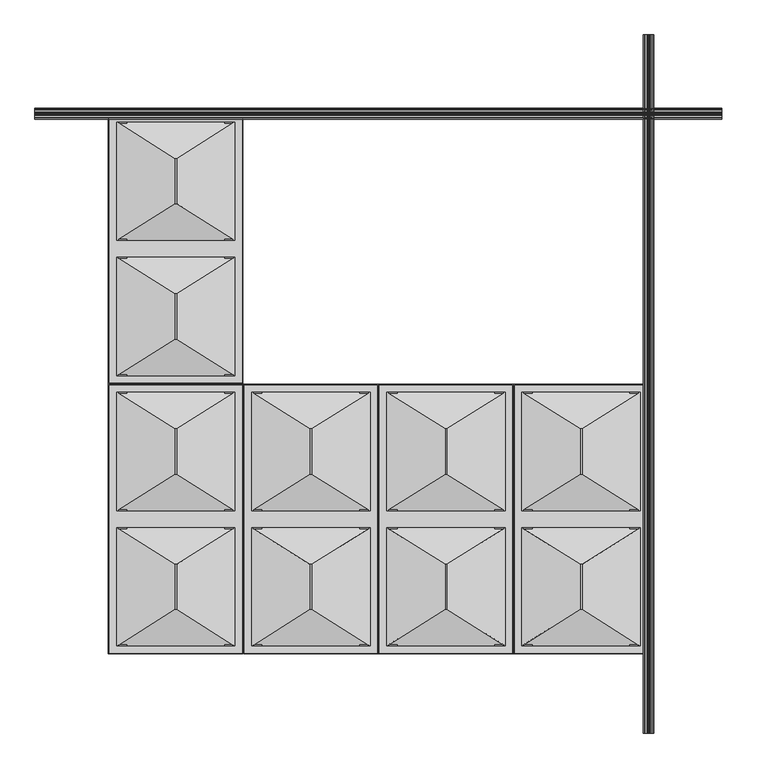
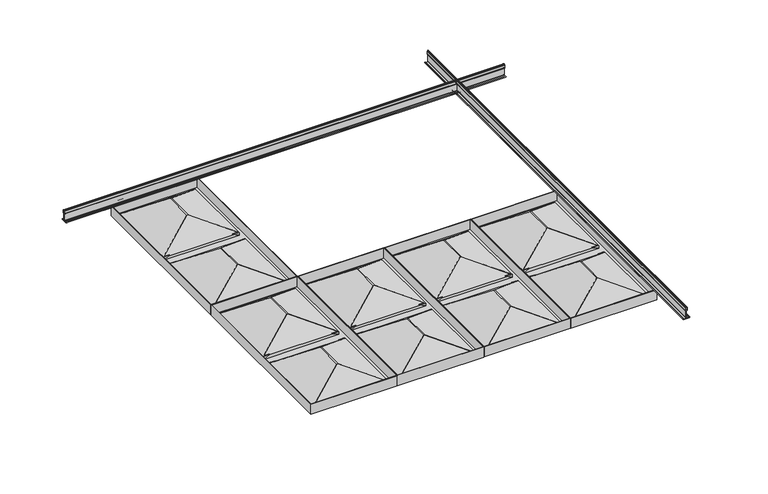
"""IFC4 building model written with IfcOpenShell, lengths in millimetres: proxy geometry, Maxxit_Piramid-Ceiling_rev-01 : Maxxit_Piramid-Ceiling_Duo."""

from ifc_helpers import new_model, si_unit, point, frame, frame_2d, origin, place, context, project, spatial, polyline, circle_curve, trimmed, segment, composite_curve, outline, extrude, faceted_brep, source, transform, mapped, element, save


def generic_models_4451431b(model_context):
    return source(origin(), model_context, "Body", "SolidModel", [
        faceted_brep([(183.30625, 1110.40625, -1.5875), (183.30625, 1110.40625, -11.1125), (206.5970758, 1110.40625, 0.0), (186.6335108, 1110.40625, 0.0), (450.3125, 1110.40625, -11.1125), (450.3125, 1110.40625, -1.5875), (446.9852392, 1110.40625, 0.0), (427.0216742, 1110.40625, 0.0), (450.3125, 1377.4125, -1.5875), (450.3125, 1377.4125, -11.1125), (427.0216742, 1377.4125, 0.0), (446.9852392, 1377.4125, 0.0), (183.30625, 1377.4125, -11.1125), (183.30625, 1377.4125, -1.5875), (186.6335108, 1377.4125, 0.0), (206.5970758, 1377.4125, 0.0), (427.0216742, 1125.208409, 0.0), (318.8856971, 1192.95625, 51.59375), (318.8856971, 1295.16875, 51.59375), (427.0216742, 1362.916591, 0.0), (314.7330529, 1192.95625, 51.59375), (314.7330529, 1295.16875, 51.59375), (206.5970758, 1362.916591, 0.0), (206.5970758, 1125.2084109, 0.0), (186.6335108, 1112.7011155, 0.0), (314.7330529, 1192.9562609, 61.11875), (314.7330529, 1295.16875, 61.11875), (186.6335108, 1375.4238848, 0.0), (318.8856971, 1192.95625, 61.11875), (318.8856971, 1295.16875, 61.11875), (446.9852392, 1375.4238848, 0.0), (446.9852392, 1112.7011152, 0.0)], [[[0, 1, 2, 3]], [[4, 5, 6, 7]], [[8, 9, 10, 11]], [[12, 13, 14, 15]], [[5, 4, 9, 8]], [[9, 4, 7, 16, 17, 18, 19, 10]], [[18, 17, 20, 21]], [[1, 12, 15, 22, 21, 20, 23, 2]], [[1, 0, 13, 12]], [[13, 0, 3, 24, 25, 26, 27, 14]], [[26, 25, 28, 29]], [[5, 8, 11, 30, 29, 28, 31, 6]], [[27, 22, 15, 14]], [[19, 30, 11, 10]], [[31, 16, 7, 6]], [[23, 24, 3, 2]], [[18, 29, 30, 19]], [[26, 21, 22, 27]], [[20, 25, 24, 23]], [[28, 17, 16, 31]], [[21, 26, 29, 18]], [[25, 20, 17, 28]]]),
        faceted_brep([(450.3125, 1110.40625, -1.5875), (450.3125, 1110.40625, -11.1125), (450.3125, 1110.6165663, -10.9527405), (450.3125, 1110.6165663, -1.4277405), (183.30625, 1110.40625, -11.1125), (183.30625, 1110.40625, -1.5875), (183.30625, 1110.6165663, -1.4277405), (183.30625, 1110.6165663, -10.9527405), (318.8856971, 1192.95625, 61.11875), (314.7330354, 1192.95625, 61.11875), (314.7330354, 1192.95625, 51.59375), (318.8856971, 1192.95625, 51.59375)], [[[0, 1, 2, 3]], [[4, 5, 6, 7]], [[5, 0, 3, 8, 9, 6]], [[1, 0, 5, 4]], [[1, 4, 7, 10, 11, 2]], [[11, 10, 9, 8]], [[3, 2, 11, 8]], [[7, 6, 9, 10]]]),
        faceted_brep([(315.221875, 1294.8625, 51.59375), (318.396875, 1294.8625, 51.59375), (318.396875, 1294.8625, 61.11875), (315.221875, 1294.8625, 61.11875), (183.30625, 1377.4125, -11.1125), (450.3125, 1377.4125, -11.1125), (183.459375, 1377.4125, -1.5875), (450.3125, 1377.4125, -1.5875)], [[[0, 1, 2, 3]], [[4, 5, 1, 0]], [[5, 4, 6, 7]], [[7, 6, 3, 2]], [[0, 3, 6, 4]], [[2, 1, 5, 7]]]),
        faceted_brep([(450.3125, 1072.40625, -1.5875), (450.3125, 1072.40625, -11.1125), (427.0216742, 1072.40625, 0.0), (446.9852392, 1072.40625, 0.0), (183.30625, 1072.40625, -11.1125), (183.30625, 1072.40625, -1.5875), (186.6335108, 1072.40625, 0.0), (206.5970758, 1072.40625, 0.0), (450.3125, 805.4, -11.1125), (450.3125, 805.4, -1.5875), (446.9852392, 805.4, 0.0), (427.0216742, 805.4, 0.0), (183.30625, 805.4, -1.5875), (183.30625, 805.4, -11.1125), (206.5970758, 805.4, 0.0), (186.6335108, 805.4, 0.0), (206.5970758, 819.895909, 0.0), (186.6335108, 807.3886152, 0.0), (186.6335108, 1070.1113845, 0.0), (206.5970758, 1057.6040891, 0.0), (446.9852392, 807.3886152, 0.0), (427.0216742, 819.895909, 0.0), (427.0216742, 1057.604091, 0.0), (446.9852392, 1070.1113848, 0.0), (318.8856971, 887.64375, 61.11875), (318.8856971, 887.64375, 51.59375), (314.7330529, 887.64375, 51.59375), (314.7330529, 887.64375, 61.11875), (314.7330529, 989.8562391, 61.11875), (314.7330529, 989.8562391, 51.59375), (318.8856971, 989.85625, 51.59375), (318.8856971, 989.85625, 61.11875)], [[[0, 1, 2, 3]], [[4, 5, 6, 7]], [[8, 9, 10, 11]], [[12, 13, 14, 15]], [[1, 0, 9, 8]], [[16, 17, 15, 14]], [[18, 19, 7, 6]], [[20, 21, 11, 10]], [[22, 23, 3, 2]], [[24, 25, 21, 20]], [[26, 27, 17, 16]], [[28, 29, 19, 18]], [[30, 31, 23, 22]], [[1, 8, 11, 21, 25, 30, 22, 2]], [[30, 25, 26, 29]], [[13, 4, 7, 19, 29, 26, 16, 14]], [[5, 4, 13, 12]], [[5, 12, 15, 17, 27, 28, 18, 6]], [[28, 27, 24, 31]], [[9, 0, 3, 23, 31, 24, 20, 10]], [[27, 26, 25, 24]], [[29, 28, 31, 30]]]),
        faceted_brep([(450.3125, 1072.40625, -11.1125), (450.3125, 1072.40625, -1.5875), (450.3125, 1072.1959337, -1.4277405), (450.3125, 1072.1959337, -10.9527405), (183.30625, 1072.40625, -1.5875), (183.30625, 1072.40625, -11.1125), (183.30625, 1072.1959337, -10.9527405), (183.30625, 1072.1959337, -1.4277405), (318.8856971, 989.85625, 61.11875), (318.8856971, 989.85625, 51.59375), (314.7330354, 989.85625, 51.59375), (314.7330354, 989.85625, 61.11875)], [[[0, 1, 2, 3]], [[4, 5, 6, 7]], [[3, 2, 8, 9]], [[7, 6, 10, 11]], [[1, 4, 7, 11, 8, 2]], [[1, 0, 5, 4]], [[5, 0, 3, 9, 10, 6]], [[8, 11, 10, 9]]]),
        faceted_brep([(315.221875, 887.95, 61.11875), (318.396875, 887.95, 61.11875), (318.396875, 887.95, 51.59375), (315.221875, 887.95, 51.59375), (450.3125, 805.4, -11.1125), (183.30625, 805.4, -11.1125), (450.159375, 805.4, -1.5875), (183.30625, 805.4, -1.5875)], [[[0, 1, 2, 3]], [[4, 5, 3, 2]], [[5, 4, 6, 7]], [[7, 6, 1, 0]], [[0, 3, 5, 7]], [[2, 1, 6, 4]]]),
        faceted_brep([(165.1, 1395.4125, 25.4), (468.3125, 1395.4125, 25.4), (468.3125, 1395.4125, -12.7), (165.1, 1395.4125, -12.7), (450.3125, 1072.40625, -12.7), (450.3125, 805.4, -12.7), (450.3125, 805.4, -11.1125), (450.3125, 1072.40625, -11.1125), (183.30625, 805.4, -12.7), (183.30625, 805.4, -11.1125), (466.725, 788.9875, -11.1125), (166.6875, 788.9875, -11.1125), (166.6875, 788.9875, 25.4), (466.725, 788.9875, 25.4), (466.725, 1393.825, -11.1125), (466.725, 1393.825, 25.4), (165.1, 787.4, 25.4), (468.3125, 787.4, 25.4), (166.6875, 1393.825, 25.4), (165.1, 787.4, -12.7), (468.3125, 787.4, -12.7), (183.30625, 1377.4125, -12.7), (183.30625, 1110.40625, -12.7), (450.3125, 1110.40625, -12.7), (450.3125, 1377.4125, -12.7), (183.30625, 1072.40625, -12.7), (183.30625, 1072.40625, -11.1125), (450.3125, 1377.4125, -11.1125), (183.30625, 1377.4125, -11.1125), (450.3125, 1110.40625, -11.1125), (183.30625, 1110.40625, -11.1125), (166.6875, 1393.825, -11.1125)], [[[0, 1, 2, 3]], [[4, 5, 6, 7]], [[5, 8, 9, 6]], [[10, 11, 12, 13]], [[14, 10, 13, 15]], [[16, 17, 1, 0], [13, 12, 18, 15]], [[19, 3, 2, 20], [21, 22, 23, 24], [8, 5, 4, 25]], [[17, 16, 19, 20]], [[1, 17, 20, 2]], [[16, 0, 3, 19]], [[8, 25, 26, 9]], [[25, 4, 7, 26]], [[21, 24, 27, 28]], [[24, 23, 29, 27]], [[23, 22, 30, 29]], [[22, 21, 28, 30]], [[11, 10, 14, 31], [7, 6, 9, 26], [28, 27, 29, 30]], [[31, 14, 15, 18]], [[11, 31, 18, 12]]]),
        faceted_brep([(1097.70625, 500.80625, -1.5875), (1097.70625, 500.80625, -11.1125), (1120.9970758, 500.80625, 0.0), (1101.0335108, 500.80625, 0.0), (1364.7125, 500.80625, -11.1125), (1364.7125, 500.80625, -1.5875), (1361.3852392, 500.80625, 0.0), (1341.4216742, 500.80625, 0.0), (1364.7125, 767.8125, -1.5875), (1364.7125, 767.8125, -11.1125), (1341.4216742, 767.8125, 0.0), (1361.3852392, 767.8125, 0.0), (1097.70625, 767.8125, -11.1125), (1097.70625, 767.8125, -1.5875), (1101.0335108, 767.8125, 0.0), (1120.9970758, 767.8125, 0.0), (1341.4216742, 515.608409, 0.0), (1233.2856971, 583.35625, 51.59375), (1233.2856971, 685.56875, 51.59375), (1341.4216742, 753.316591, 0.0), (1229.1330529, 583.35625, 51.59375), (1229.1330529, 685.56875, 51.59375), (1120.9970758, 753.316591, 0.0), (1120.9970758, 515.6084109, 0.0), (1101.0335108, 503.1011155, 0.0), (1229.1330529, 583.3562609, 61.11875), (1229.1330529, 685.56875, 61.11875), (1101.0335108, 765.8238848, 0.0), (1233.2856971, 583.35625, 61.11875), (1233.2856971, 685.56875, 61.11875), (1361.3852392, 765.8238848, 0.0), (1361.3852392, 503.1011152, 0.0)], [[[0, 1, 2, 3]], [[4, 5, 6, 7]], [[8, 9, 10, 11]], [[12, 13, 14, 15]], [[5, 4, 9, 8]], [[9, 4, 7, 16, 17, 18, 19, 10]], [[18, 17, 20, 21]], [[1, 12, 15, 22, 21, 20, 23, 2]], [[1, 0, 13, 12]], [[13, 0, 3, 24, 25, 26, 27, 14]], [[26, 25, 28, 29]], [[5, 8, 11, 30, 29, 28, 31, 6]], [[27, 22, 15, 14]], [[19, 30, 11, 10]], [[31, 16, 7, 6]], [[23, 24, 3, 2]], [[18, 29, 30, 19]], [[26, 21, 22, 27]], [[20, 25, 24, 23]], [[28, 17, 16, 31]], [[21, 26, 29, 18]], [[25, 20, 17, 28]]]),
        faceted_brep([(1364.7125, 500.80625, -1.5875), (1364.7125, 500.80625, -11.1125), (1364.7125, 501.0165663, -10.9527405), (1364.7125, 501.0165663, -1.4277405), (1097.70625, 500.80625, -11.1125), (1097.70625, 500.80625, -1.5875), (1097.70625, 501.0165663, -1.4277405), (1097.70625, 501.0165663, -10.9527405), (1233.2856971, 583.35625, 61.11875), (1229.1330354, 583.35625, 61.11875), (1229.1330354, 583.35625, 51.59375), (1233.2856971, 583.35625, 51.59375)], [[[0, 1, 2, 3]], [[4, 5, 6, 7]], [[5, 0, 3, 8, 9, 6]], [[1, 0, 5, 4]], [[1, 4, 7, 10, 11, 2]], [[11, 10, 9, 8]], [[3, 2, 11, 8]], [[7, 6, 9, 10]]]),
        faceted_brep([(1229.621875, 685.2625, 51.59375), (1232.796875, 685.2625, 51.59375), (1232.796875, 685.2625, 61.11875), (1229.621875, 685.2625, 61.11875), (1097.70625, 767.8125, -11.1125), (1364.7125, 767.8125, -11.1125), (1097.859375, 767.8125, -1.5875), (1364.7125, 767.8125, -1.5875)], [[[0, 1, 2, 3]], [[4, 5, 1, 0]], [[5, 4, 6, 7]], [[7, 6, 3, 2]], [[0, 3, 6, 4]], [[2, 1, 5, 7]]]),
        faceted_brep([(1364.7125, 462.80625, -1.5875), (1364.7125, 462.80625, -11.1125), (1341.4216742, 462.80625, 0.0), (1361.3852392, 462.80625, 0.0), (1097.70625, 462.80625, -11.1125), (1097.70625, 462.80625, -1.5875), (1101.0335108, 462.80625, 0.0), (1120.9970758, 462.80625, 0.0), (1364.7125, 195.8, -11.1125), (1364.7125, 195.8, -1.5875), (1361.3852392, 195.8, 0.0), (1341.4216742, 195.8, 0.0), (1097.70625, 195.8, -1.5875), (1097.70625, 195.8, -11.1125), (1120.9970758, 195.8, 0.0), (1101.0335108, 195.8, 0.0), (1120.9970758, 210.295909, 0.0), (1101.0335108, 197.7886152, 0.0), (1101.0335108, 460.5113845, 0.0), (1120.9970758, 448.0040891, 0.0), (1361.3852392, 197.7886152, 0.0), (1341.4216742, 210.295909, 0.0), (1341.4216742, 448.004091, 0.0), (1361.3852392, 460.5113848, 0.0), (1233.2856971, 278.04375, 61.11875), (1233.2856971, 278.04375, 51.59375), (1229.1330529, 278.04375, 51.59375), (1229.1330529, 278.04375, 61.11875), (1229.1330529, 380.2562391, 61.11875), (1229.1330529, 380.2562391, 51.59375), (1233.2856971, 380.25625, 51.59375), (1233.2856971, 380.25625, 61.11875)], [[[0, 1, 2, 3]], [[4, 5, 6, 7]], [[8, 9, 10, 11]], [[12, 13, 14, 15]], [[1, 0, 9, 8]], [[16, 17, 15, 14]], [[18, 19, 7, 6]], [[20, 21, 11, 10]], [[22, 23, 3, 2]], [[24, 25, 21, 20]], [[26, 27, 17, 16]], [[28, 29, 19, 18]], [[30, 31, 23, 22]], [[1, 8, 11, 21, 25, 30, 22, 2]], [[30, 25, 26, 29]], [[13, 4, 7, 19, 29, 26, 16, 14]], [[5, 4, 13, 12]], [[5, 12, 15, 17, 27, 28, 18, 6]], [[28, 27, 24, 31]], [[9, 0, 3, 23, 31, 24, 20, 10]], [[27, 26, 25, 24]], [[29, 28, 31, 30]]]),
        faceted_brep([(1364.7125, 462.80625, -11.1125), (1364.7125, 462.80625, -1.5875), (1364.7125, 462.5959337, -1.4277405), (1364.7125, 462.5959337, -10.9527405), (1097.70625, 462.80625, -1.5875), (1097.70625, 462.80625, -11.1125), (1097.70625, 462.5959337, -10.9527405), (1097.70625, 462.5959337, -1.4277405), (1233.2856971, 380.25625, 61.11875), (1233.2856971, 380.25625, 51.59375), (1229.1330354, 380.25625, 51.59375), (1229.1330354, 380.25625, 61.11875)], [[[0, 1, 2, 3]], [[4, 5, 6, 7]], [[3, 2, 8, 9]], [[7, 6, 10, 11]], [[1, 4, 7, 11, 8, 2]], [[1, 0, 5, 4]], [[5, 0, 3, 9, 10, 6]], [[8, 11, 10, 9]]]),
        faceted_brep([(1229.621875, 278.35, 61.11875), (1232.796875, 278.35, 61.11875), (1232.796875, 278.35, 51.59375), (1229.621875, 278.35, 51.59375), (1364.7125, 195.8, -11.1125), (1097.70625, 195.8, -11.1125), (1364.559375, 195.8, -1.5875), (1097.70625, 195.8, -1.5875)], [[[0, 1, 2, 3]], [[4, 5, 3, 2]], [[5, 4, 6, 7]], [[7, 6, 1, 0]], [[0, 3, 5, 7]], [[2, 1, 6, 4]]]),
        faceted_brep([(1079.5, 785.8125, 25.4), (1382.7125, 785.8125, 25.4), (1382.7125, 785.8125, -12.7), (1079.5, 785.8125, -12.7), (1364.7125, 462.80625, -12.7), (1364.7125, 195.8, -12.7), (1364.7125, 195.8, -11.1125), (1364.7125, 462.80625, -11.1125), (1097.70625, 195.8, -12.7), (1097.70625, 195.8, -11.1125), (1381.125, 179.3875, -11.1125), (1081.0875, 179.3875, -11.1125), (1081.0875, 179.3875, 25.4), (1381.125, 179.3875, 25.4), (1381.125, 784.225, -11.1125), (1381.125, 784.225, 25.4), (1079.5, 177.8, 25.4), (1382.7125, 177.8, 25.4), (1081.0875, 784.225, 25.4), (1079.5, 177.8, -12.7), (1382.7125, 177.8, -12.7), (1097.70625, 767.8125, -12.7), (1097.70625, 500.80625, -12.7), (1364.7125, 500.80625, -12.7), (1364.7125, 767.8125, -12.7), (1097.70625, 462.80625, -12.7), (1097.70625, 462.80625, -11.1125), (1364.7125, 767.8125, -11.1125), (1097.70625, 767.8125, -11.1125), (1364.7125, 500.80625, -11.1125), (1097.70625, 500.80625, -11.1125), (1081.0875, 784.225, -11.1125)], [[[0, 1, 2, 3]], [[4, 5, 6, 7]], [[5, 8, 9, 6]], [[10, 11, 12, 13]], [[14, 10, 13, 15]], [[16, 17, 1, 0], [13, 12, 18, 15]], [[19, 3, 2, 20], [21, 22, 23, 24], [8, 5, 4, 25]], [[17, 16, 19, 20]], [[1, 17, 20, 2]], [[16, 0, 3, 19]], [[8, 25, 26, 9]], [[25, 4, 7, 26]], [[21, 24, 27, 28]], [[24, 23, 29, 27]], [[23, 22, 30, 29]], [[22, 21, 28, 30]], [[11, 10, 14, 31], [7, 6, 9, 26], [28, 27, 29, 30]], [[31, 14, 15, 18]], [[11, 31, 18, 12]]]),
        faceted_brep([(792.90625, 500.80625, -1.5875), (792.90625, 500.80625, -11.1125), (816.1970758, 500.80625, 0.0), (796.2335108, 500.80625, 0.0), (1059.9125, 500.80625, -11.1125), (1059.9125, 500.80625, -1.5875), (1056.5852392, 500.80625, 0.0), (1036.6216742, 500.80625, 0.0), (1059.9125, 767.8125, -1.5875), (1059.9125, 767.8125, -11.1125), (1036.6216742, 767.8125, 0.0), (1056.5852392, 767.8125, 0.0), (792.90625, 767.8125, -11.1125), (792.90625, 767.8125, -1.5875), (796.2335108, 767.8125, 0.0), (816.1970758, 767.8125, 0.0), (1036.6216742, 515.608409, 0.0), (928.4856971, 583.35625, 51.59375), (928.4856971, 685.56875, 51.59375), (1036.6216742, 753.316591, 0.0), (924.3330529, 583.35625, 51.59375), (924.3330529, 685.56875, 51.59375), (816.1970758, 753.316591, 0.0), (816.1970758, 515.6084109, 0.0), (796.2335108, 503.1011155, 0.0), (924.3330529, 583.3562609, 61.11875), (924.3330529, 685.56875, 61.11875), (796.2335108, 765.8238848, 0.0), (928.4856971, 583.35625, 61.11875), (928.4856971, 685.56875, 61.11875), (1056.5852392, 765.8238848, 0.0), (1056.5852392, 503.1011152, 0.0)], [[[0, 1, 2, 3]], [[4, 5, 6, 7]], [[8, 9, 10, 11]], [[12, 13, 14, 15]], [[5, 4, 9, 8]], [[9, 4, 7, 16, 17, 18, 19, 10]], [[18, 17, 20, 21]], [[1, 12, 15, 22, 21, 20, 23, 2]], [[1, 0, 13, 12]], [[13, 0, 3, 24, 25, 26, 27, 14]], [[26, 25, 28, 29]], [[5, 8, 11, 30, 29, 28, 31, 6]], [[27, 22, 15, 14]], [[19, 30, 11, 10]], [[31, 16, 7, 6]], [[23, 24, 3, 2]], [[18, 29, 30, 19]], [[26, 21, 22, 27]], [[20, 25, 24, 23]], [[28, 17, 16, 31]], [[21, 26, 29, 18]], [[25, 20, 17, 28]]]),
        faceted_brep([(1059.9125, 500.80625, -1.5875), (1059.9125, 500.80625, -11.1125), (1059.9125, 501.0165663, -10.9527405), (1059.9125, 501.0165663, -1.4277405), (792.90625, 500.80625, -11.1125), (792.90625, 500.80625, -1.5875), (792.90625, 501.0165663, -1.4277405), (792.90625, 501.0165663, -10.9527405), (928.4856971, 583.35625, 61.11875), (924.3330354, 583.35625, 61.11875), (924.3330354, 583.35625, 51.59375), (928.4856971, 583.35625, 51.59375)], [[[0, 1, 2, 3]], [[4, 5, 6, 7]], [[5, 0, 3, 8, 9, 6]], [[1, 0, 5, 4]], [[1, 4, 7, 10, 11, 2]], [[11, 10, 9, 8]], [[3, 2, 11, 8]], [[7, 6, 9, 10]]]),
        faceted_brep([(924.821875, 685.2625, 51.59375), (927.996875, 685.2625, 51.59375), (927.996875, 685.2625, 61.11875), (924.821875, 685.2625, 61.11875), (792.90625, 767.8125, -11.1125), (1059.9125, 767.8125, -11.1125), (793.059375, 767.8125, -1.5875), (1059.9125, 767.8125, -1.5875)], [[[0, 1, 2, 3]], [[4, 5, 1, 0]], [[5, 4, 6, 7]], [[7, 6, 3, 2]], [[0, 3, 6, 4]], [[2, 1, 5, 7]]]),
        faceted_brep([(1059.9125, 462.80625, -1.5875), (1059.9125, 462.80625, -11.1125), (1036.6216742, 462.80625, 0.0), (1056.5852392, 462.80625, 0.0), (792.90625, 462.80625, -11.1125), (792.90625, 462.80625, -1.5875), (796.2335108, 462.80625, 0.0), (816.1970758, 462.80625, 0.0), (1059.9125, 195.8, -11.1125), (1059.9125, 195.8, -1.5875), (1056.5852392, 195.8, 0.0), (1036.6216742, 195.8, 0.0), (792.90625, 195.8, -1.5875), (792.90625, 195.8, -11.1125), (816.1970758, 195.8, 0.0), (796.2335108, 195.8, 0.0), (816.1970758, 210.295909, 0.0), (796.2335108, 197.7886152, 0.0), (796.2335108, 460.5113845, 0.0), (816.1970758, 448.0040891, 0.0), (1056.5852392, 197.7886152, 0.0), (1036.6216742, 210.295909, 0.0), (1036.6216742, 448.004091, 0.0), (1056.5852392, 460.5113848, 0.0), (928.4856971, 278.04375, 61.11875), (928.4856971, 278.04375, 51.59375), (924.3330529, 278.04375, 51.59375), (924.3330529, 278.04375, 61.11875), (924.3330529, 380.2562391, 61.11875), (924.3330529, 380.2562391, 51.59375), (928.4856971, 380.25625, 51.59375), (928.4856971, 380.25625, 61.11875)], [[[0, 1, 2, 3]], [[4, 5, 6, 7]], [[8, 9, 10, 11]], [[12, 13, 14, 15]], [[1, 0, 9, 8]], [[16, 17, 15, 14]], [[18, 19, 7, 6]], [[20, 21, 11, 10]], [[22, 23, 3, 2]], [[24, 25, 21, 20]], [[26, 27, 17, 16]], [[28, 29, 19, 18]], [[30, 31, 23, 22]], [[1, 8, 11, 21, 25, 30, 22, 2]], [[30, 25, 26, 29]], [[13, 4, 7, 19, 29, 26, 16, 14]], [[5, 4, 13, 12]], [[5, 12, 15, 17, 27, 28, 18, 6]], [[28, 27, 24, 31]], [[9, 0, 3, 23, 31, 24, 20, 10]], [[27, 26, 25, 24]], [[29, 28, 31, 30]]]),
        faceted_brep([(1059.9125, 462.80625, -11.1125), (1059.9125, 462.80625, -1.5875), (1059.9125, 462.5959337, -1.4277405), (1059.9125, 462.5959337, -10.9527405), (792.90625, 462.80625, -1.5875), (792.90625, 462.80625, -11.1125), (792.90625, 462.5959337, -10.9527405), (792.90625, 462.5959337, -1.4277405), (928.4856971, 380.25625, 61.11875), (928.4856971, 380.25625, 51.59375), (924.3330354, 380.25625, 51.59375), (924.3330354, 380.25625, 61.11875)], [[[0, 1, 2, 3]], [[4, 5, 6, 7]], [[3, 2, 8, 9]], [[7, 6, 10, 11]], [[1, 4, 7, 11, 8, 2]], [[1, 0, 5, 4]], [[5, 0, 3, 9, 10, 6]], [[8, 11, 10, 9]]]),
        faceted_brep([(924.821875, 278.35, 61.11875), (927.996875, 278.35, 61.11875), (927.996875, 278.35, 51.59375), (924.821875, 278.35, 51.59375), (1059.9125, 195.8, -11.1125), (792.90625, 195.8, -11.1125), (1059.759375, 195.8, -1.5875), (792.90625, 195.8, -1.5875)], [[[0, 1, 2, 3]], [[4, 5, 3, 2]], [[5, 4, 6, 7]], [[7, 6, 1, 0]], [[0, 3, 5, 7]], [[2, 1, 6, 4]]]),
        faceted_brep([(774.7, 785.8125, 25.4), (1077.9125, 785.8125, 25.4), (1077.9125, 785.8125, -12.7), (774.7, 785.8125, -12.7), (1059.9125, 462.80625, -12.7), (1059.9125, 195.8, -12.7), (1059.9125, 195.8, -11.1125), (1059.9125, 462.80625, -11.1125), (792.90625, 195.8, -12.7), (792.90625, 195.8, -11.1125), (1076.325, 179.3875, -11.1125), (776.2875, 179.3875, -11.1125), (776.2875, 179.3875, 25.4), (1076.325, 179.3875, 25.4), (1076.325, 784.225, -11.1125), (1076.325, 784.225, 25.4), (774.7, 177.8, 25.4), (1077.9125, 177.8, 25.4), (776.2875, 784.225, 25.4), (774.7, 177.8, -12.7), (1077.9125, 177.8, -12.7), (792.90625, 767.8125, -12.7), (792.90625, 500.80625, -12.7), (1059.9125, 500.80625, -12.7), (1059.9125, 767.8125, -12.7), (792.90625, 462.80625, -12.7), (792.90625, 462.80625, -11.1125), (1059.9125, 767.8125, -11.1125), (792.90625, 767.8125, -11.1125), (1059.9125, 500.80625, -11.1125), (792.90625, 500.80625, -11.1125), (776.2875, 784.225, -11.1125)], [[[0, 1, 2, 3]], [[4, 5, 6, 7]], [[5, 8, 9, 6]], [[10, 11, 12, 13]], [[14, 10, 13, 15]], [[16, 17, 1, 0], [13, 12, 18, 15]], [[19, 3, 2, 20], [21, 22, 23, 24], [8, 5, 4, 25]], [[17, 16, 19, 20]], [[1, 17, 20, 2]], [[16, 0, 3, 19]], [[8, 25, 26, 9]], [[25, 4, 7, 26]], [[21, 24, 27, 28]], [[24, 23, 29, 27]], [[23, 22, 30, 29]], [[22, 21, 28, 30]], [[11, 10, 14, 31], [7, 6, 9, 26], [28, 27, 29, 30]], [[31, 14, 15, 18]], [[11, 31, 18, 12]]]),
        faceted_brep([(488.10625, 500.80625, -1.5875), (488.10625, 500.80625, -11.1125), (511.3970758, 500.80625, 0.0), (491.4335108, 500.80625, 0.0), (755.1125, 500.80625, -11.1125), (755.1125, 500.80625, -1.5875), (751.7852392, 500.80625, 0.0), (731.8216742, 500.80625, 0.0), (755.1125, 767.8125, -1.5875), (755.1125, 767.8125, -11.1125), (731.8216742, 767.8125, 0.0), (751.7852392, 767.8125, 0.0), (488.10625, 767.8125, -11.1125), (488.10625, 767.8125, -1.5875), (491.4335108, 767.8125, 0.0), (511.3970758, 767.8125, 0.0), (731.8216742, 515.608409, 0.0), (623.6856971, 583.35625, 51.59375), (623.6856971, 685.56875, 51.59375), (731.8216742, 753.316591, 0.0), (619.5330529, 583.35625, 51.59375), (619.5330529, 685.56875, 51.59375), (511.3970758, 753.316591, 0.0), (511.3970758, 515.6084109, 0.0), (491.4335108, 503.1011155, 0.0), (619.5330529, 583.3562609, 61.11875), (619.5330529, 685.56875, 61.11875), (491.4335108, 765.8238848, 0.0), (623.6856971, 583.35625, 61.11875), (623.6856971, 685.56875, 61.11875), (751.7852392, 765.8238848, 0.0), (751.7852392, 503.1011152, 0.0)], [[[0, 1, 2, 3]], [[4, 5, 6, 7]], [[8, 9, 10, 11]], [[12, 13, 14, 15]], [[5, 4, 9, 8]], [[9, 4, 7, 16, 17, 18, 19, 10]], [[18, 17, 20, 21]], [[1, 12, 15, 22, 21, 20, 23, 2]], [[1, 0, 13, 12]], [[13, 0, 3, 24, 25, 26, 27, 14]], [[26, 25, 28, 29]], [[5, 8, 11, 30, 29, 28, 31, 6]], [[27, 22, 15, 14]], [[19, 30, 11, 10]], [[31, 16, 7, 6]], [[23, 24, 3, 2]], [[18, 29, 30, 19]], [[26, 21, 22, 27]], [[20, 25, 24, 23]], [[28, 17, 16, 31]], [[21, 26, 29, 18]], [[25, 20, 17, 28]]]),
        faceted_brep([(755.1125, 500.80625, -1.5875), (755.1125, 500.80625, -11.1125), (755.1125, 501.0165663, -10.9527405), (755.1125, 501.0165663, -1.4277405), (488.10625, 500.80625, -11.1125), (488.10625, 500.80625, -1.5875), (488.10625, 501.0165663, -1.4277405), (488.10625, 501.0165663, -10.9527405), (623.6856971, 583.35625, 61.11875), (619.5330354, 583.35625, 61.11875), (619.5330354, 583.35625, 51.59375), (623.6856971, 583.35625, 51.59375)], [[[0, 1, 2, 3]], [[4, 5, 6, 7]], [[5, 0, 3, 8, 9, 6]], [[1, 0, 5, 4]], [[1, 4, 7, 10, 11, 2]], [[11, 10, 9, 8]], [[3, 2, 11, 8]], [[7, 6, 9, 10]]]),
        faceted_brep([(620.021875, 685.2625, 51.59375), (623.196875, 685.2625, 51.59375), (623.196875, 685.2625, 61.11875), (620.021875, 685.2625, 61.11875), (488.10625, 767.8125, -11.1125), (755.1125, 767.8125, -11.1125), (488.259375, 767.8125, -1.5875), (755.1125, 767.8125, -1.5875)], [[[0, 1, 2, 3]], [[4, 5, 1, 0]], [[5, 4, 6, 7]], [[7, 6, 3, 2]], [[0, 3, 6, 4]], [[2, 1, 5, 7]]]),
        faceted_brep([(755.1125, 462.80625, -1.5875), (755.1125, 462.80625, -11.1125), (731.8216742, 462.80625, 0.0), (751.7852392, 462.80625, 0.0), (488.10625, 462.80625, -11.1125), (488.10625, 462.80625, -1.5875), (491.4335108, 462.80625, 0.0), (511.3970758, 462.80625, 0.0), (755.1125, 195.8, -11.1125), (755.1125, 195.8, -1.5875), (751.7852392, 195.8, 0.0), (731.8216742, 195.8, 0.0), (488.10625, 195.8, -1.5875), (488.10625, 195.8, -11.1125), (511.3970758, 195.8, 0.0), (491.4335108, 195.8, 0.0), (511.3970758, 210.295909, 0.0), (491.4335108, 197.7886152, 0.0), (491.4335108, 460.5113845, 0.0), (511.3970758, 448.0040891, 0.0), (751.7852392, 197.7886152, 0.0), (731.8216742, 210.295909, 0.0), (731.8216742, 448.004091, 0.0), (751.7852392, 460.5113848, 0.0), (623.6856971, 278.04375, 61.11875), (623.6856971, 278.04375, 51.59375), (619.5330529, 278.04375, 51.59375), (619.5330529, 278.04375, 61.11875), (619.5330529, 380.2562391, 61.11875), (619.5330529, 380.2562391, 51.59375), (623.6856971, 380.25625, 51.59375), (623.6856971, 380.25625, 61.11875)], [[[0, 1, 2, 3]], [[4, 5, 6, 7]], [[8, 9, 10, 11]], [[12, 13, 14, 15]], [[1, 0, 9, 8]], [[16, 17, 15, 14]], [[18, 19, 7, 6]], [[20, 21, 11, 10]], [[22, 23, 3, 2]], [[24, 25, 21, 20]], [[26, 27, 17, 16]], [[28, 29, 19, 18]], [[30, 31, 23, 22]], [[1, 8, 11, 21, 25, 30, 22, 2]], [[30, 25, 26, 29]], [[13, 4, 7, 19, 29, 26, 16, 14]], [[5, 4, 13, 12]], [[5, 12, 15, 17, 27, 28, 18, 6]], [[28, 27, 24, 31]], [[9, 0, 3, 23, 31, 24, 20, 10]], [[27, 26, 25, 24]], [[29, 28, 31, 30]]]),
        faceted_brep([(755.1125, 462.80625, -11.1125), (755.1125, 462.80625, -1.5875), (755.1125, 462.5959337, -1.4277405), (755.1125, 462.5959337, -10.9527405), (488.10625, 462.80625, -1.5875), (488.10625, 462.80625, -11.1125), (488.10625, 462.5959337, -10.9527405), (488.10625, 462.5959337, -1.4277405), (623.6856971, 380.25625, 61.11875), (623.6856971, 380.25625, 51.59375), (619.5330354, 380.25625, 51.59375), (619.5330354, 380.25625, 61.11875)], [[[0, 1, 2, 3]], [[4, 5, 6, 7]], [[3, 2, 8, 9]], [[7, 6, 10, 11]], [[1, 4, 7, 11, 8, 2]], [[1, 0, 5, 4]], [[5, 0, 3, 9, 10, 6]], [[8, 11, 10, 9]]]),
        faceted_brep([(620.021875, 278.35, 61.11875), (623.196875, 278.35, 61.11875), (623.196875, 278.35, 51.59375), (620.021875, 278.35, 51.59375), (755.1125, 195.8, -11.1125), (488.10625, 195.8, -11.1125), (754.959375, 195.8, -1.5875), (488.10625, 195.8, -1.5875)], [[[0, 1, 2, 3]], [[4, 5, 3, 2]], [[5, 4, 6, 7]], [[7, 6, 1, 0]], [[0, 3, 5, 7]], [[2, 1, 6, 4]]]),
        faceted_brep([(469.9, 785.8125, 25.4), (773.1125, 785.8125, 25.4), (773.1125, 785.8125, -12.7), (469.9, 785.8125, -12.7), (755.1125, 462.80625, -12.7), (755.1125, 195.8, -12.7), (755.1125, 195.8, -11.1125), (755.1125, 462.80625, -11.1125), (488.10625, 195.8, -12.7), (488.10625, 195.8, -11.1125), (771.525, 179.3875, -11.1125), (471.4875, 179.3875, -11.1125), (471.4875, 179.3875, 25.4), (771.525, 179.3875, 25.4), (771.525, 784.225, -11.1125), (771.525, 784.225, 25.4), (469.9, 177.8, 25.4), (773.1125, 177.8, 25.4), (471.4875, 784.225, 25.4), (469.9, 177.8, -12.7), (773.1125, 177.8, -12.7), (488.10625, 767.8125, -12.7), (488.10625, 500.80625, -12.7), (755.1125, 500.80625, -12.7), (755.1125, 767.8125, -12.7), (488.10625, 462.80625, -12.7), (488.10625, 462.80625, -11.1125), (755.1125, 767.8125, -11.1125), (488.10625, 767.8125, -11.1125), (755.1125, 500.80625, -11.1125), (488.10625, 500.80625, -11.1125), (471.4875, 784.225, -11.1125)], [[[0, 1, 2, 3]], [[4, 5, 6, 7]], [[5, 8, 9, 6]], [[10, 11, 12, 13]], [[14, 10, 13, 15]], [[16, 17, 1, 0], [13, 12, 18, 15]], [[19, 3, 2, 20], [21, 22, 23, 24], [8, 5, 4, 25]], [[17, 16, 19, 20]], [[1, 17, 20, 2]], [[16, 0, 3, 19]], [[8, 25, 26, 9]], [[25, 4, 7, 26]], [[21, 24, 27, 28]], [[24, 23, 29, 27]], [[23, 22, 30, 29]], [[22, 21, 28, 30]], [[11, 10, 14, 31], [7, 6, 9, 26], [28, 27, 29, 30]], [[31, 14, 15, 18]], [[11, 31, 18, 12]]]),
        faceted_brep([(183.30625, 500.80625, -1.5875), (183.30625, 500.80625, -11.1125), (206.5970758, 500.80625, 0.0), (186.6335108, 500.80625, 0.0), (450.3125, 500.80625, -11.1125), (450.3125, 500.80625, -1.5875), (446.9852392, 500.80625, 0.0), (427.0216742, 500.80625, 0.0), (450.3125, 767.8125, -1.5875), (450.3125, 767.8125, -11.1125), (427.0216742, 767.8125, 0.0), (446.9852392, 767.8125, 0.0), (183.30625, 767.8125, -11.1125), (183.30625, 767.8125, -1.5875), (186.6335108, 767.8125, 0.0), (206.5970758, 767.8125, 0.0), (427.0216742, 515.608409, 0.0), (318.8856971, 583.35625, 51.59375), (318.8856971, 685.56875, 51.59375), (427.0216742, 753.316591, 0.0), (314.7330529, 583.35625, 51.59375), (314.7330529, 685.56875, 51.59375), (206.5970758, 753.316591, 0.0), (206.5970758, 515.6084109, 0.0), (186.6335108, 503.1011155, 0.0), (314.7330529, 583.3562609, 61.11875), (314.7330529, 685.56875, 61.11875), (186.6335108, 765.8238848, 0.0), (318.8856971, 583.35625, 61.11875), (318.8856971, 685.56875, 61.11875), (446.9852392, 765.8238848, 0.0), (446.9852392, 503.1011152, 0.0)], [[[0, 1, 2, 3]], [[4, 5, 6, 7]], [[8, 9, 10, 11]], [[12, 13, 14, 15]], [[5, 4, 9, 8]], [[9, 4, 7, 16, 17, 18, 19, 10]], [[18, 17, 20, 21]], [[1, 12, 15, 22, 21, 20, 23, 2]], [[1, 0, 13, 12]], [[13, 0, 3, 24, 25, 26, 27, 14]], [[26, 25, 28, 29]], [[5, 8, 11, 30, 29, 28, 31, 6]], [[27, 22, 15, 14]], [[19, 30, 11, 10]], [[31, 16, 7, 6]], [[23, 24, 3, 2]], [[18, 29, 30, 19]], [[26, 21, 22, 27]], [[20, 25, 24, 23]], [[28, 17, 16, 31]], [[21, 26, 29, 18]], [[25, 20, 17, 28]]]),
        faceted_brep([(450.3125, 500.80625, -1.5875), (450.3125, 500.80625, -11.1125), (450.3125, 501.0165663, -10.9527405), (450.3125, 501.0165663, -1.4277405), (183.30625, 500.80625, -11.1125), (183.30625, 500.80625, -1.5875), (183.30625, 501.0165663, -1.4277405), (183.30625, 501.0165663, -10.9527405), (318.8856971, 583.35625, 61.11875), (314.7330354, 583.35625, 61.11875), (314.7330354, 583.35625, 51.59375), (318.8856971, 583.35625, 51.59375)], [[[0, 1, 2, 3]], [[4, 5, 6, 7]], [[5, 0, 3, 8, 9, 6]], [[1, 0, 5, 4]], [[1, 4, 7, 10, 11, 2]], [[11, 10, 9, 8]], [[3, 2, 11, 8]], [[7, 6, 9, 10]]]),
        faceted_brep([(315.221875, 685.2625, 51.59375), (318.396875, 685.2625, 51.59375), (318.396875, 685.2625, 61.11875), (315.221875, 685.2625, 61.11875), (183.30625, 767.8125, -11.1125), (450.3125, 767.8125, -11.1125), (183.459375, 767.8125, -1.5875), (450.3125, 767.8125, -1.5875)], [[[0, 1, 2, 3]], [[4, 5, 1, 0]], [[5, 4, 6, 7]], [[7, 6, 3, 2]], [[0, 3, 6, 4]], [[2, 1, 5, 7]]]),
        faceted_brep([(450.3125, 462.80625, -1.5875), (450.3125, 462.80625, -11.1125), (427.0216742, 462.80625, 0.0), (446.9852392, 462.80625, 0.0), (183.30625, 462.80625, -11.1125), (183.30625, 462.80625, -1.5875), (186.6335108, 462.80625, 0.0), (206.5970758, 462.80625, 0.0), (450.3125, 195.8, -11.1125), (450.3125, 195.8, -1.5875), (446.9852392, 195.8, 0.0), (427.0216742, 195.8, 0.0), (183.30625, 195.8, -1.5875), (183.30625, 195.8, -11.1125), (206.5970758, 195.8, 0.0), (186.6335108, 195.8, 0.0), (206.5970758, 210.295909, 0.0), (186.6335108, 197.7886152, 0.0), (186.6335108, 460.5113845, 0.0), (206.5970758, 448.0040891, 0.0), (446.9852392, 197.7886152, 0.0), (427.0216742, 210.295909, 0.0), (427.0216742, 448.004091, 0.0), (446.9852392, 460.5113848, 0.0), (318.8856971, 278.04375, 61.11875), (318.8856971, 278.04375, 51.59375), (314.7330529, 278.04375, 51.59375), (314.7330529, 278.04375, 61.11875), (314.7330529, 380.2562391, 61.11875), (314.7330529, 380.2562391, 51.59375), (318.8856971, 380.25625, 51.59375), (318.8856971, 380.25625, 61.11875)], [[[0, 1, 2, 3]], [[4, 5, 6, 7]], [[8, 9, 10, 11]], [[12, 13, 14, 15]], [[1, 0, 9, 8]], [[16, 17, 15, 14]], [[18, 19, 7, 6]], [[20, 21, 11, 10]], [[22, 23, 3, 2]], [[24, 25, 21, 20]], [[26, 27, 17, 16]], [[28, 29, 19, 18]], [[30, 31, 23, 22]], [[1, 8, 11, 21, 25, 30, 22, 2]], [[30, 25, 26, 29]], [[13, 4, 7, 19, 29, 26, 16, 14]], [[5, 4, 13, 12]], [[5, 12, 15, 17, 27, 28, 18, 6]], [[28, 27, 24, 31]], [[9, 0, 3, 23, 31, 24, 20, 10]], [[27, 26, 25, 24]], [[29, 28, 31, 30]]]),
        faceted_brep([(450.3125, 462.80625, -11.1125), (450.3125, 462.80625, -1.5875), (450.3125, 462.5959337, -1.4277405), (450.3125, 462.5959337, -10.9527405), (183.30625, 462.80625, -1.5875), (183.30625, 462.80625, -11.1125), (183.30625, 462.5959337, -10.9527405), (183.30625, 462.5959337, -1.4277405), (318.8856971, 380.25625, 61.11875), (318.8856971, 380.25625, 51.59375), (314.7330354, 380.25625, 51.59375), (314.7330354, 380.25625, 61.11875)], [[[0, 1, 2, 3]], [[4, 5, 6, 7]], [[3, 2, 8, 9]], [[7, 6, 10, 11]], [[1, 4, 7, 11, 8, 2]], [[1, 0, 5, 4]], [[5, 0, 3, 9, 10, 6]], [[8, 11, 10, 9]]]),
        faceted_brep([(315.221875, 278.35, 61.11875), (318.396875, 278.35, 61.11875), (318.396875, 278.35, 51.59375), (315.221875, 278.35, 51.59375), (450.3125, 195.8, -11.1125), (183.30625, 195.8, -11.1125), (450.159375, 195.8, -1.5875), (183.30625, 195.8, -1.5875)], [[[0, 1, 2, 3]], [[4, 5, 3, 2]], [[5, 4, 6, 7]], [[7, 6, 1, 0]], [[0, 3, 5, 7]], [[2, 1, 6, 4]]]),
        faceted_brep([(165.1, 785.8125, 25.4), (468.3125, 785.8125, 25.4), (468.3125, 785.8125, -12.7), (165.1, 785.8125, -12.7), (450.3125, 462.80625, -12.7), (450.3125, 195.8, -12.7), (450.3125, 195.8, -11.1125), (450.3125, 462.80625, -11.1125), (183.30625, 195.8, -12.7), (183.30625, 195.8, -11.1125), (466.725, 179.3875, -11.1125), (166.6875, 179.3875, -11.1125), (166.6875, 179.3875, 25.4), (466.725, 179.3875, 25.4), (466.725, 784.225, -11.1125), (466.725, 784.225, 25.4), (165.1, 177.8, 25.4), (468.3125, 177.8, 25.4), (166.6875, 784.225, 25.4), (165.1, 177.8, -12.7), (468.3125, 177.8, -12.7), (183.30625, 767.8125, -12.7), (183.30625, 500.80625, -12.7), (450.3125, 500.80625, -12.7), (450.3125, 767.8125, -12.7), (183.30625, 462.80625, -12.7), (183.30625, 462.80625, -11.1125), (450.3125, 767.8125, -11.1125), (183.30625, 767.8125, -11.1125), (450.3125, 500.80625, -11.1125), (183.30625, 500.80625, -11.1125), (166.6875, 784.225, -11.1125)], [[[0, 1, 2, 3]], [[4, 5, 6, 7]], [[5, 8, 9, 6]], [[10, 11, 12, 13]], [[14, 10, 13, 15]], [[16, 17, 1, 0], [13, 12, 18, 15]], [[19, 3, 2, 20], [21, 22, 23, 24], [8, 5, 4, 25]], [[17, 16, 19, 20]], [[1, 17, 20, 2]], [[16, 0, 3, 19]], [[8, 25, 26, 9]], [[25, 4, 7, 26]], [[21, 24, 27, 28]], [[24, 23, 29, 27]], [[23, 22, 30, 29]], [[22, 21, 28, 30]], [[11, 10, 14, 31], [7, 6, 9, 26], [28, 27, 29, 30]], [[31, 14, 15, 18]], [[11, 31, 18, 12]]]),
        extrude(outline(composite_curve([segment(polyline([(26.3453115, 1384.6521622), (26.0364605, 1393.0221882), (27.0486923, 1393.0221882), (27.0486923, 1385.2587813)]), True, "CONTINUOUS"), segment(trimmed(circle_curve(frame_2d((28.0053766, 1385.2587813)), 0.9566843), [point((27.0486923, 1385.2587813))], [point((28.0053766, 1384.302097))], True, "CARTESIAN"), True, "CONTINUOUS"), segment(polyline([(28.0053766, 1384.302097), (53.7729211, 1384.302097)]), True, "CONTINUOUS"), segment(trimmed(circle_curve(frame_2d((53.6130577, 1385.0289444)), 0.74422), [point((53.7729211, 1384.302097))], [point((54.356, 1384.9853536))], True, "CARTESIAN"), True, "CONTINUOUS"), segment(trimmed(circle_curve(frame_2d((58.371716, 1385.2444703)), 4.0240672), [point((54.356, 1384.9853536))], [point((54.4068054, 1385.9319295))], False, "CARTESIAN"), True, "CONTINUOUS"), segment(trimmed(circle_curve(frame_2d((55.7865501, 1385.574174)), 1.4253717), [point((54.4068054, 1385.9319295))], [point((55.7865501, 1386.9995457))], False, "CARTESIAN"), True, "CONTINUOUS"), segment(polyline([(55.7865501, 1386.9995457), (64.7585942, 1386.9995457)]), True, "CONTINUOUS"), segment(trimmed(circle_curve(frame_2d((64.8150812, 1384.9494608)), 2.0508629), [point((64.7585942, 1386.9995457))], [point((66.2652603, 1386.3996399))], False, "CARTESIAN"), True, "CONTINUOUS"), segment(polyline([(66.2652603, 1386.3996399), (68.1708325, 1384.4940677)]), True, "CONTINUOUS"), segment(trimmed(circle_curve(frame_2d((67.1830148, 1383.50625)), 1.3969852), [point((68.1708325, 1384.4940677))], [point((68.1708325, 1382.5184323))], False, "CARTESIAN"), True, "CONTINUOUS"), segment(polyline([(68.1708325, 1382.5184323), (66.2652603, 1380.6128601)]), True, "CONTINUOUS"), segment(trimmed(circle_curve(frame_2d((64.8150812, 1382.0630392)), 2.0508629), [point((66.2652603, 1380.6128601))], [point((64.7585942, 1380.0129543))], False, "CARTESIAN"), True, "CONTINUOUS"), segment(polyline([(64.7585942, 1380.0129543), (55.7865501, 1380.0129543)]), True, "CONTINUOUS"), segment(trimmed(circle_curve(frame_2d((55.7865501, 1381.438326)), 1.4253717), [point((55.7865501, 1380.0129543))], [point((54.4068054, 1381.0805705))], False, "CARTESIAN"), True, "CONTINUOUS"), segment(trimmed(circle_curve(frame_2d((58.371716, 1381.7680297)), 4.0240672), [point((54.4068054, 1381.0805705))], [point((54.356, 1382.0271464))], False, "CARTESIAN"), True, "CONTINUOUS"), segment(trimmed(circle_curve(frame_2d((53.6130577, 1381.9835556)), 0.74422), [point((54.356, 1382.0271464))], [point((53.7436541, 1382.7162274))], True, "CARTESIAN"), True, "CONTINUOUS"), segment(polyline([(53.7436541, 1382.7162274), (28.0053766, 1382.7162274)]), True, "CONTINUOUS"), segment(trimmed(circle_curve(frame_2d((28.0053766, 1381.7595431)), 0.9566843), [point((28.0053766, 1382.7162274))], [point((27.0486923, 1381.7595431))], True, "CARTESIAN"), True, "CONTINUOUS"), segment(polyline([(27.0486923, 1381.7595431), (27.0486923, 1373.1632271), (26.0290179, 1373.1632271), (26.3453115, 1382.3661622)]), True, "CONTINUOUS"), segment(trimmed(circle_curve(frame_2d((27.4883115, 1382.3661622)), 1.143), [point((26.3453115, 1382.3661622))], [point((27.4883115, 1383.5091622))], False, "CARTESIAN"), True, "CONTINUOUS"), segment(trimmed(circle_curve(frame_2d((27.4883115, 1384.6521622)), 1.143), [point((27.4883115, 1383.5091622))], [point((26.3453115, 1384.6521622))], False, "CARTESIAN"), True, "CONTINUOUS")], self_intersect=False), holes=[composite_curve([segment(trimmed(circle_curve(frame_2d((54.058724, 1382.4366423)), 1.0922), [point((54.2797221, 1383.50625))], [point((55.150924, 1382.4366423))], False, "CARTESIAN"), True, "CONTINUOUS"), segment(polyline([(55.150924, 1382.4366423), (55.150924, 1381.4462215)]), True, "CONTINUOUS"), segment(trimmed(circle_curve(frame_2d((55.7859245, 1381.4462215)), 0.6350005), [point((55.150924, 1381.4462215))], [point((55.7859245, 1380.811221))], True, "CARTESIAN"), True, "CONTINUOUS"), segment(polyline([(55.7859245, 1380.811221), (64.7585942, 1380.811221)]), True, "CONTINUOUS"), segment(trimmed(circle_curve(frame_2d((64.7240599, 1382.3140641)), 1.5032399), [point((64.7585942, 1380.811221))], [point((65.7039943, 1381.1741261))], True, "CARTESIAN"), True, "CONTINUOUS"), segment(polyline([(65.7039943, 1381.1741261), (67.6095665, 1383.0796983)]), True, "CONTINUOUS"), segment(trimmed(circle_curve(frame_2d((67.1830148, 1383.50625)), 0.6032352), [point((67.6095665, 1383.0796983))], [point((67.6095665, 1383.9328017))], True, "CARTESIAN"), True, "CONTINUOUS"), segment(polyline([(67.6095665, 1383.9328017), (65.7039943, 1385.8383739)]), True, "CONTINUOUS"), segment(trimmed(circle_curve(frame_2d((64.7240599, 1384.6984359)), 1.5032399), [point((65.7039943, 1385.8383739))], [point((64.7585942, 1386.201279))], True, "CARTESIAN"), True, "CONTINUOUS"), segment(polyline([(64.7585942, 1386.201279), (55.7859245, 1386.201279)]), True, "CONTINUOUS"), segment(trimmed(circle_curve(frame_2d((55.7859245, 1385.5662785)), 0.6350005), [point((55.7859245, 1386.201279))], [point((55.150924, 1385.5662785))], True, "CARTESIAN"), True, "CONTINUOUS"), segment(polyline([(55.150924, 1385.5662785), (55.150924, 1384.5758577)]), True, "CONTINUOUS"), segment(trimmed(circle_curve(frame_2d((54.058724, 1384.5758577)), 1.0922), [point((55.150924, 1384.5758577))], [point((54.2797221, 1383.50625))], False, "CARTESIAN"), True, "CONTINUOUS")], self_intersect=False)]), frame((0.0, -0.79375, 0.0), z_axis=(0.0, 1.0, 0.0), x_axis=(0.0, 0.0, 1.0)), (0.0, 0.0, 1.0), 1574.8),
        extrude(outline(composite_curve([segment(trimmed(circle_curve(frame_2d((26.8823557, 1393.9419885)), 1.4823557), [point((25.4, 1393.9419885))], [point((28.3175237, 1393.5709475))], False, "CARTESIAN"), True, "CONTINUOUS"), segment(polyline([(28.3175237, 1393.5709475), (27.887022, 1392.0447705), (27.123083, 1392.2602613), (27.550773, 1393.7764703)]), True, "CONTINUOUS"), segment(trimmed(circle_curve(frame_2d((26.8823557, 1393.9419885)), 0.6886057), [point((27.550773, 1393.7764703))], [point((26.19375, 1393.9419885))], True, "CARTESIAN"), True, "CONTINUOUS"), segment(polyline([(26.19375, 1393.9419885), (26.19375, 1373.0705115)]), True, "CONTINUOUS"), segment(trimmed(circle_curve(frame_2d((26.8823557, 1373.0705115)), 0.6886057), [point((26.19375, 1373.0705115))], [point((27.550773, 1373.2360297))], True, "CARTESIAN"), True, "CONTINUOUS"), segment(polyline([(27.550773, 1373.2360297), (27.123083, 1374.7522387), (27.887022, 1374.9677295), (28.3175237, 1373.4415525)]), True, "CONTINUOUS"), segment(trimmed(circle_curve(frame_2d((26.8823557, 1373.0705115)), 1.4823557), [point((28.3175237, 1373.4415525))], [point((25.4, 1373.0705115))], False, "CARTESIAN"), True, "CONTINUOUS"), segment(polyline([(25.4, 1373.0705115), (25.4, 1393.9419885)]), True, "CONTINUOUS")], self_intersect=False)), frame((0.0, -0.79375, 0.0), z_axis=(0.0, 1.0, 0.0), x_axis=(0.0, 0.0, 1.0)), (0.0, 0.0, 1.0), 1574.8),
        extrude(outline(composite_curve([segment(trimmed(circle_curve(frame_2d((1397.3521622, 27.4883115)), 1.143), [point((1397.3521622, 26.3453115))], [point((1396.2091622, 27.4883115))], False, "CARTESIAN"), True, "CONTINUOUS"), segment(trimmed(circle_curve(frame_2d((1395.0661622, 27.4883115)), 1.143), [point((1396.2091622, 27.4883115))], [point((1395.0661622, 26.3453115))], False, "CARTESIAN"), True, "CONTINUOUS"), segment(polyline([(1395.0661622, 26.3453115), (1385.8632271, 26.0290179), (1385.8632271, 27.0486923), (1394.4595431, 27.0486923)]), True, "CONTINUOUS"), segment(trimmed(circle_curve(frame_2d((1394.4595431, 28.0053766)), 0.9566843), [point((1394.4595431, 27.0486923))], [point((1395.4162274, 28.0053766))], True, "CARTESIAN"), True, "CONTINUOUS"), segment(polyline([(1395.4162274, 28.0053766), (1395.4162274, 53.7436541)]), True, "CONTINUOUS"), segment(trimmed(circle_curve(frame_2d((1394.6835556, 53.6130577)), 0.74422), [point((1395.4162274, 53.7436541))], [point((1394.7271464, 54.356))], True, "CARTESIAN"), True, "CONTINUOUS"), segment(trimmed(circle_curve(frame_2d((1394.4680297, 58.371716)), 4.0240672), [point((1394.7271464, 54.356))], [point((1393.7805705, 54.4068054))], False, "CARTESIAN"), True, "CONTINUOUS"), segment(trimmed(circle_curve(frame_2d((1394.138326, 55.7865501)), 1.4253717), [point((1393.7805705, 54.4068054))], [point((1392.7129543, 55.7865501))], False, "CARTESIAN"), True, "CONTINUOUS"), segment(polyline([(1392.7129543, 55.7865501), (1392.7129543, 64.7585942)]), True, "CONTINUOUS"), segment(trimmed(circle_curve(frame_2d((1394.7630392, 64.8150812)), 2.0508629), [point((1392.7129543, 64.7585942))], [point((1393.3128601, 66.2652603))], False, "CARTESIAN"), True, "CONTINUOUS"), segment(polyline([(1393.3128601, 66.2652603), (1395.2184323, 68.1708325)]), True, "CONTINUOUS"), segment(trimmed(circle_curve(frame_2d((1396.20625, 67.1830148)), 1.3969852), [point((1395.2184323, 68.1708325))], [point((1397.1940677, 68.1708325))], False, "CARTESIAN"), True, "CONTINUOUS"), segment(polyline([(1397.1940677, 68.1708325), (1399.0996399, 66.2652603)]), True, "CONTINUOUS"), segment(trimmed(circle_curve(frame_2d((1397.6494608, 64.8150812)), 2.0508629), [point((1399.0996399, 66.2652603))], [point((1399.6995457, 64.7585942))], False, "CARTESIAN"), True, "CONTINUOUS"), segment(polyline([(1399.6995457, 64.7585942), (1399.6995457, 55.7865501)]), True, "CONTINUOUS"), segment(trimmed(circle_curve(frame_2d((1398.274174, 55.7865501)), 1.4253717), [point((1399.6995457, 55.7865501))], [point((1398.6319295, 54.4068054))], False, "CARTESIAN"), True, "CONTINUOUS"), segment(trimmed(circle_curve(frame_2d((1397.9444703, 58.371716)), 4.0240672), [point((1398.6319295, 54.4068054))], [point((1397.6853536, 54.356))], False, "CARTESIAN"), True, "CONTINUOUS"), segment(trimmed(circle_curve(frame_2d((1397.7289444, 53.6130577)), 0.74422), [point((1397.6853536, 54.356))], [point((1397.002097, 53.7729211))], True, "CARTESIAN"), True, "CONTINUOUS"), segment(polyline([(1397.002097, 53.7729211), (1397.002097, 28.0053766)]), True, "CONTINUOUS"), segment(trimmed(circle_curve(frame_2d((1397.9587813, 28.0053766)), 0.9566843), [point((1397.002097, 28.0053766))], [point((1397.9587813, 27.0486923))], True, "CARTESIAN"), True, "CONTINUOUS"), segment(polyline([(1397.9587813, 27.0486923), (1405.7221882, 27.0486923), (1405.7221882, 26.0364605), (1397.3521622, 26.3453115)]), True, "CONTINUOUS")], self_intersect=False), holes=[composite_curve([segment(trimmed(circle_curve(frame_2d((1397.2758577, 54.058724)), 1.0922), [point((1396.20625, 54.2797221))], [point((1397.2758577, 55.150924))], False, "CARTESIAN"), True, "CONTINUOUS"), segment(polyline([(1397.2758577, 55.150924), (1398.2662785, 55.150924)]), True, "CONTINUOUS"), segment(trimmed(circle_curve(frame_2d((1398.2662785, 55.7859245)), 0.6350005), [point((1398.2662785, 55.150924))], [point((1398.901279, 55.7859245))], True, "CARTESIAN"), True, "CONTINUOUS"), segment(polyline([(1398.901279, 55.7859245), (1398.901279, 64.7585942)]), True, "CONTINUOUS"), segment(trimmed(circle_curve(frame_2d((1397.3984359, 64.7240599)), 1.5032399), [point((1398.901279, 64.7585942))], [point((1398.5383739, 65.7039943))], True, "CARTESIAN"), True, "CONTINUOUS"), segment(polyline([(1398.5383739, 65.7039943), (1396.6328017, 67.6095665)]), True, "CONTINUOUS"), segment(trimmed(circle_curve(frame_2d((1396.20625, 67.1830148)), 0.6032352), [point((1396.6328017, 67.6095665))], [point((1395.7796983, 67.6095665))], True, "CARTESIAN"), True, "CONTINUOUS"), segment(polyline([(1395.7796983, 67.6095665), (1393.8741261, 65.7039943)]), True, "CONTINUOUS"), segment(trimmed(circle_curve(frame_2d((1395.0140641, 64.7240599)), 1.5032399), [point((1393.8741261, 65.7039943))], [point((1393.511221, 64.7585942))], True, "CARTESIAN"), True, "CONTINUOUS"), segment(polyline([(1393.511221, 64.7585942), (1393.511221, 55.7859245)]), True, "CONTINUOUS"), segment(trimmed(circle_curve(frame_2d((1394.1462215, 55.7859245)), 0.6350005), [point((1393.511221, 55.7859245))], [point((1394.1462215, 55.150924))], True, "CARTESIAN"), True, "CONTINUOUS"), segment(polyline([(1394.1462215, 55.150924), (1395.1366423, 55.150924)]), True, "CONTINUOUS"), segment(trimmed(circle_curve(frame_2d((1395.1366423, 54.058724)), 1.0922), [point((1395.1366423, 55.150924))], [point((1396.20625, 54.2797221))], False, "CARTESIAN"), True, "CONTINUOUS")], self_intersect=False)]), frame((-0.79375, 0.0, 0.0), z_axis=(1.0, 0.0, 0.0), x_axis=(0.0, 1.0, 0.0)), (0.0, 0.0, 1.0), 1549.4),
        extrude(outline(composite_curve([segment(polyline([(1406.6419885, 25.4), (1385.7705115, 25.4)]), True, "CONTINUOUS"), segment(trimmed(circle_curve(frame_2d((1385.7705115, 26.8823557)), 1.4823557), [point((1385.7705115, 25.4))], [point((1386.1415525, 28.3175237))], False, "CARTESIAN"), True, "CONTINUOUS"), segment(polyline([(1386.1415525, 28.3175237), (1387.6677295, 27.887022), (1387.4522387, 27.123083), (1385.9360297, 27.550773)]), True, "CONTINUOUS"), segment(trimmed(circle_curve(frame_2d((1385.7705115, 26.8823557)), 0.6886057), [point((1385.9360297, 27.550773))], [point((1385.7705115, 26.19375))], True, "CARTESIAN"), True, "CONTINUOUS"), segment(polyline([(1385.7705115, 26.19375), (1406.6419885, 26.19375)]), True, "CONTINUOUS"), segment(trimmed(circle_curve(frame_2d((1406.6419885, 26.8823557)), 0.6886057), [point((1406.6419885, 26.19375))], [point((1406.4764703, 27.550773))], True, "CARTESIAN"), True, "CONTINUOUS"), segment(polyline([(1406.4764703, 27.550773), (1404.9602613, 27.123083), (1404.7447705, 27.887022), (1406.2709475, 28.3175237)]), True, "CONTINUOUS"), segment(trimmed(circle_curve(frame_2d((1406.6419885, 26.8823557)), 1.4823557), [point((1406.2709475, 28.3175237))], [point((1406.6419885, 25.4))], False, "CARTESIAN"), True, "CONTINUOUS")], self_intersect=False)), frame((-0.79375, 0.0, 0.0), z_axis=(1.0, 0.0, 0.0), x_axis=(0.0, 1.0, 0.0)), (0.0, 0.0, 1.0), 1549.4),
    ])


if __name__ == "__main__":
    model = new_model("IFC4")
    model_context = context("Model", 3, world=origin())
    ifc_project = project(units=[si_unit("LENGTHUNIT", "METRE", prefix="MILLI")], contexts=[model_context])
    site = spatial("IfcSite", under=ifc_project)
    building = spatial("IfcBuilding", under=site)
    placement = place(None, origin())
    generic_models_shape = generic_models_4451431b(model_context)
    element("IfcBuildingElementProxy", 1, Name="Maxxit_Piramid-Ceiling_rev-01 : Maxxit_Piramid-Ceiling_Duo", ObjectType="Maxxit_Piramid-Ceiling_rev-01 : Maxxit_Piramid-Ceiling_Duo", at=placement, inside=building, context=model_context, shape_type="MappedRepresentation", body=[
        mapped(generic_models_shape, transform((0.0, 0.0, 0.0), x_axis=(1.0, 0.0, 0.0), y_axis=(0.0, 1.0, 0.0), z_axis=(0.0, 0.0, 1.0))),
    ])
    save(model, "model.ifc")
